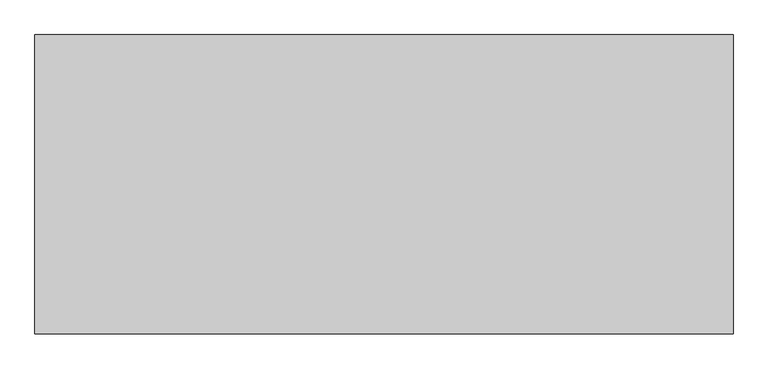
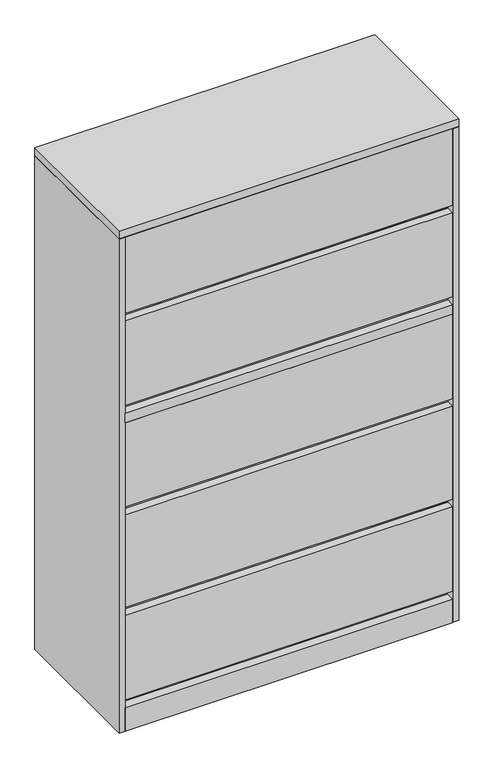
"""IFC4 building model written with IfcOpenShell, lengths in millimetres: furniture geometry, Steelcase - 900 Series - Storage - Lateral File With Posting Shelf - Flush Steel : One 12H Lift Up Door - 42W."""

from ifc_helpers import new_model, si_unit, frame, origin, origin_with_axes, place, context, project, spatial, polyline, outline, extrude, faceted_brep, source, transform, mapped, element, save


def furniture_0059523f(model_context):
    return source(origin(), model_context, "Body", "SolidModel", [
        extrude(outline(polyline([(1045.9722015, -457.2), (20.8289612, -457.2), (20.8289612, -431.800255), (1045.9722015, -431.800255), (1045.9722015, -457.2)])), frame((0.0, 0.0, 103.3780013), z_axis=(0.0, 0.0, 1.0), x_axis=(1.0, 0.0, 0.0)), (0.0, 0.0, 1.0), 280.7461987),
        extrude(outline(polyline([(1045.9722015, -457.2), (20.8289612, -457.2), (20.8289612, -431.800255), (1045.9722015, -431.800255), (1045.9722015, -457.2)])), frame((0.0, 0.0, 409.5242), z_axis=(0.0, 0.0, 1.0), x_axis=(1.0, 0.0, 0.0)), (0.0, 0.0, 1.0), 307.54066),
        extrude(outline(polyline([(1045.9722015, -457.2), (20.8289612, -457.2), (20.8289612, -431.800255), (1045.9722015, -431.800255), (1045.9722015, -457.2)])), frame((0.0, 0.0, 742.46486), z_axis=(0.0, 0.0, 1.0), x_axis=(1.0, 0.0, 0.0)), (0.0, 0.0, 1.0), 279.4),
        extrude(outline(polyline([(1045.9722015, -457.2), (20.8289612, -457.2), (20.8289612, -431.800255), (1045.9722015, -431.800255), (1045.9722015, -457.2)])), frame((0.0, 0.0, 1079.5), z_axis=(0.0, 0.0, 1.0), x_axis=(1.0, 0.0, 0.0)), (0.0, 0.0, 1.0), 279.4),
        extrude(outline(polyline([(1045.9722015, -457.2), (20.8289612, -457.2), (20.8289612, -431.800255), (1045.9722015, -431.800255), (1045.9722015, -457.2)])), frame((0.0, 0.0, 1384.3), z_axis=(0.0, 0.0, 1.0), x_axis=(1.0, 0.0, 0.0)), (0.0, 0.0, 1.0), 252.3046248),
        extrude(outline(polyline([(1045.9722015, -457.2), (19.3039998, -457.2), (19.3039998, -431.800255), (1045.9722015, -431.800255), (1045.9722015, -457.2)])), frame((0.0, 0.0, 1022.5278), z_axis=(0.0, 0.0, 1.0), x_axis=(1.0, 0.0, 0.0)), (0.0, 0.0, 1.0), 31.5722),
        extrude(outline(polyline([(1047.4960184, -25.2721219), (1047.4960184, -431.800255), (19.3039998, -431.800255), (19.3039998, -25.2721219), (1047.4960184, -25.2721219)])), frame((0.0, 0.0, 1358.9), z_axis=(0.0, 0.0, 1.0), x_axis=(1.0, 0.0, 0.0)), (0.0, 0.0, 1.0), 25.4),
        extrude(outline(polyline([(1047.4960184, -25.2721219), (1047.4960184, -431.800255), (19.3039998, -431.800255), (19.3039998, -25.2721219), (1047.4960184, -25.2721219)])), frame((0.0, 0.0, 1054.1000242), z_axis=(0.0, 0.0, 1.0), x_axis=(1.0, 0.0, 0.0)), (0.0, 0.0, 1.0), 25.4),
        extrude(outline(polyline([(1047.4960184, -25.2721219), (1047.4960184, -431.800255), (19.3039998, -431.800255), (19.3039998, -25.2721219), (1047.4960184, -25.2721219)])), frame((0.0, 0.0, 717.06486), z_axis=(0.0, 0.0, 1.0), x_axis=(1.0, 0.0, 0.0)), (0.0, 0.0, 1.0), 25.4),
        extrude(outline(polyline([(1047.4960184, -25.2721219), (1047.4960184, -431.800255), (19.3039998, -431.800255), (19.3039998, -25.2721219), (1047.4960184, -25.2721219)])), frame((0.0, 0.0, 384.1242037), z_axis=(0.0, 0.0, 1.0), x_axis=(1.0, 0.0, 0.0)), (0.0, 0.0, 1.0), 25.4),
        extrude(outline(polyline([(-430.275847, 77.9779983), (-430.275847, 103.3780013), (-25.2721219, 103.3780013), (-25.2721219, 0.0), (-457.2, 0.0), (-457.2, 77.9779983), (-430.275847, 77.9779983)])), frame((19.3039998, 0.0, 0.0), z_axis=(1.0, 0.0, 0.0), x_axis=(0.0, 1.0, 0.0)), (0.0, 0.0, 1.0), 1026.6682018),
        faceted_brep([(1066.8, 0.0, 1663.7), (0.0, 0.0, 1663.7), (0.0, -457.2, 1663.7), (1066.8, -457.2, 1663.7), (1066.8, 0.0, 1638.2999516), (1066.8, -457.2, 1638.2999516), (0.0, -457.2, 1638.2999516), (0.0, 0.0, 1638.2999516), (1047.4960184, -25.2721219, 1638.2999516), (20.8289612, -25.2721219, 1638.2999516), (20.8289612, -415.9241219, 1638.2999516), (1047.4960184, -415.9241219, 1638.2999516), (1047.4960184, -25.2721219, 1636.776), (1047.4960184, -415.9241219, 1636.776), (20.8289612, -415.9241219, 1636.776), (20.8289612, -25.2721219, 1636.776)], [[[0, 1, 2, 3]], [[4, 5, 6, 7], [8, 9, 10, 11]], [[1, 0, 4, 7]], [[2, 1, 7, 6]], [[3, 2, 6, 5]], [[0, 3, 5, 4]], [[12, 13, 14, 15]], [[12, 15, 9, 8]], [[15, 14, 10, 9]], [[14, 13, 11, 10]], [[13, 12, 8, 11]]]),
        extrude(outline(polyline([(1047.4960184, -25.2721219), (19.3039998, -25.2721219), (19.3039998, -457.2), (0.0, -457.2), (0.0, 0.0), (1066.8, 0.0), (1066.8, -457.2), (1047.4960184, -457.2), (1047.4960184, -25.2721219)])), origin_with_axes(), (0.0, 0.0, 1.0), 1636.776),
    ])


if __name__ == "__main__":
    model = new_model("IFC4")
    model_context = context("Model", 3, world=origin())
    ifc_project = project(units=[si_unit("LENGTHUNIT", "METRE", prefix="MILLI")], contexts=[model_context])
    site = spatial("IfcSite", under=ifc_project)
    building = spatial("IfcBuilding", under=site)
    placement = place(None, origin())
    furniture_shape = furniture_0059523f(model_context)
    element("IfcFurniture", 1, ObjectType="Steelcase - 900 Series - Storage - Lateral File With Posting Shelf - Flush Steel : One 12H Lift Up Door - 42W", at=placement, inside=building, context=model_context, shape_type="MappedRepresentation", body=[
        mapped(furniture_shape, transform((0.0, 0.0, 0.0), x_axis=(1.0, 0.0, 0.0), y_axis=(0.0, 1.0, 0.0), z_axis=(0.0, 0.0, 1.0))),
    ])
    save(model, "model.ifc")
